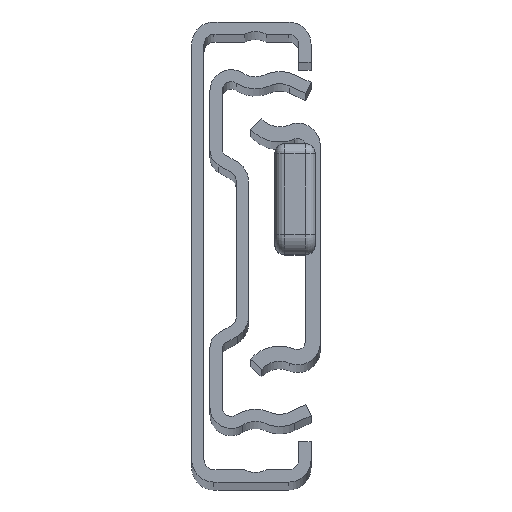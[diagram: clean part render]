
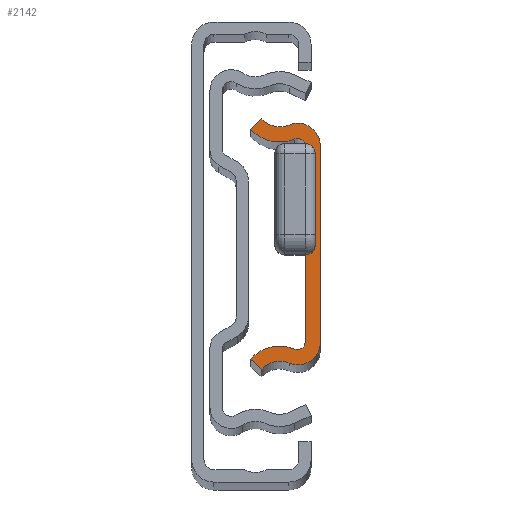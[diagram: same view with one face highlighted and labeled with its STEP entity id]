
A CAD part, top view. The second image highlights one B-rep face of the part: STEP entity #2142.
In plain terms, the highlighted planar face has unit normal (0, 0, 1).
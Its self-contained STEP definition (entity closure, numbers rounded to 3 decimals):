
#28 = ORIENTED_EDGE ( 'NONE', *, *, #2298, .T. ) ;
#34 = DIRECTION ( 'NONE',  ( -1., 0., 0. ) ) ;
#204 = ORIENTED_EDGE ( 'NONE', *, *, #2213, .T. ) ;
#209 = CARTESIAN_POINT ( 'NONE',  ( -0.564, -13.97, 0. ) ) ;
#831 = EDGE_CURVE ( 'NONE', #13198, #18164, #3821, .T. ) ;
#921 = PLANE ( 'NONE',  #24462 ) ;
#1334 = CARTESIAN_POINT ( 'NONE',  ( 1.95, -9.725, 0. ) ) ;
#1961 = DIRECTION ( 'NONE',  ( 0.745, -0.667, 0. ) ) ;
#1976 = FACE_OUTER_BOUND ( 'NONE', #21202, .T. ) ;
#1999 = VERTEX_POINT ( 'NONE', #5037 ) ;
#2138 = DIRECTION ( 'NONE',  ( -0.745, -0.667, 0. ) ) ;
#2142 = ADVANCED_FACE ( 'Face2', ( #1976 ), #921, .T. ) ;
#2213 = EDGE_CURVE ( 'NONE', #18585, #10687, #25864, .T. ) ;
#2296 = CARTESIAN_POINT ( 'NONE',  ( 1.95, -9.725, 0. ) ) ;
#2298 = EDGE_CURVE ( 'NONE', #27238, #13821, #20577, .T. ) ;
#2658 = AXIS2_PLACEMENT_3D ( 'NONE', #26074, #27967, #10317 ) ;
#3283 = EDGE_CURVE ( 'NONE', #5659, #18585, #4070, .T. ) ;
#3374 = AXIS2_PLACEMENT_3D ( 'NONE', #209, #6575, #20199 ) ;
#3472 = EDGE_CURVE ( 'NONE', #13821, #13198, #17418, .T. ) ;
#3752 = DIRECTION ( 'NONE',  ( 0., 0., -1. ) ) ;
#3821 = CIRCLE ( 'NONE', #25749, 3.88 ) ;
#3831 = LINE ( 'NONE', #2296, #19299 ) ;
#3853 = DIRECTION ( 'NONE',  ( 0., 0., -1. ) ) ;
#4070 = CIRCLE ( 'NONE', #10749, 2.226 ) ;
#5037 = CARTESIAN_POINT ( 'NONE',  ( 0.942, -10.394, 0. ) ) ;
#5308 = CARTESIAN_POINT ( 'NONE',  ( -2.333, -12.378, 0. ) ) ;
#5659 = VERTEX_POINT ( 'NONE', #13403 ) ;
#5874 = DIRECTION ( 'NONE',  ( 0., 0., -1. ) ) ;
#5930 = CARTESIAN_POINT ( 'NONE',  ( -0.564, -13.97, 0. ) ) ;
#5963 = CARTESIAN_POINT ( 'NONE',  ( 1.224, -9.725, 0. ) ) ;
#6401 = AXIS2_PLACEMENT_3D ( 'NONE', #8204, #3853, #19565 ) ;
#6575 = DIRECTION ( 'NONE',  ( 0., 0., 1. ) ) ;
#6933 = CARTESIAN_POINT ( 'NONE',  ( 1.95, 9.725, 0. ) ) ;
#7330 = VECTOR ( 'NONE', #1961, 1000. ) ;
#8097 = ORIENTED_EDGE ( 'NONE', *, *, #11609, .T. ) ;
#8185 = DIRECTION ( 'NONE',  ( 1., 0., 0. ) ) ;
#8204 = CARTESIAN_POINT ( 'NONE',  ( 1.224, 9.725, 0. ) ) ;
#8271 = VECTOR ( 'NONE', #2138, 1000. ) ;
#8436 = CARTESIAN_POINT ( 'NONE',  ( -0.564, 13.97, 0. ) ) ;
#9050 = DIRECTION ( 'NONE',  ( 0., 0., 1. ) ) ;
#9348 = EDGE_CURVE ( 'NONE', #24424, #11978, #3831, .T. ) ;
#9620 = ORIENTED_EDGE ( 'NONE', *, *, #24012, .T. ) ;
#10317 = DIRECTION ( 'NONE',  ( -1., 0., 0. ) ) ;
#10586 = ORIENTED_EDGE ( 'NONE', *, *, #831, .T. ) ;
#10687 = VERTEX_POINT ( 'NONE', #24263 ) ;
#10749 = AXIS2_PLACEMENT_3D ( 'NONE', #28551, #12958, #10800 ) ;
#10800 = DIRECTION ( 'NONE',  ( 1., 0., 0. ) ) ;
#11269 = EDGE_CURVE ( 'NONE', #1999, #19591, #16020, .T. ) ;
#11609 = EDGE_CURVE ( 'NONE', #18164, #24424, #18856, .T. ) ;
#11978 = VERTEX_POINT ( 'NONE', #1334 ) ;
#11989 = CARTESIAN_POINT ( 'NONE',  ( 3.45, -9.725, 0. ) ) ;
#12033 = ORIENTED_EDGE ( 'NONE', *, *, #11269, .T. ) ;
#12088 = DIRECTION ( 'NONE',  ( 0., 0., 1. ) ) ;
#12183 = DIRECTION ( 'NONE',  ( 0., 1., 0. ) ) ;
#12354 = CARTESIAN_POINT ( 'NONE',  ( 1.224, 9.725, 0. ) ) ;
#12958 = DIRECTION ( 'NONE',  ( 0., 0., 1. ) ) ;
#13070 = CARTESIAN_POINT ( 'NONE',  ( -3.45, -11.377, 0. ) ) ;
#13198 = VERTEX_POINT ( 'NONE', #22245 ) ;
#13342 = CARTESIAN_POINT ( 'NONE',  ( -3.45, 11.377, 0. ) ) ;
#13403 = CARTESIAN_POINT ( 'NONE',  ( 0.36, -11.777, 0. ) ) ;
#13821 = VERTEX_POINT ( 'NONE', #24586 ) ;
#15764 = AXIS2_PLACEMENT_3D ( 'NONE', #12354, #16796, #27852 ) ;
#16020 = CIRCLE ( 'NONE', #3374, 3.88 ) ;
#16254 = ORIENTED_EDGE ( 'NONE', *, *, #23756, .T. ) ;
#16402 = ORIENTED_EDGE ( 'NONE', *, *, #9348, .T. ) ;
#16796 = DIRECTION ( 'NONE',  ( 0., 0., 1. ) ) ;
#17164 = DIRECTION ( 'NONE',  ( 1., 0., 0. ) ) ;
#17418 = LINE ( 'NONE', #13342, #8271 ) ;
#17459 = CIRCLE ( 'NONE', #15764, 2.226 ) ;
#17544 = ORIENTED_EDGE ( 'NONE', *, *, #3283, .T. ) ;
#17662 = EDGE_CURVE ( 'NONE', #19591, #28919, #19949, .T. ) ;
#17993 = ORIENTED_EDGE ( 'NONE', *, *, #17662, .T. ) ;
#18164 = VERTEX_POINT ( 'NONE', #26354 ) ;
#18585 = VERTEX_POINT ( 'NONE', #21159 ) ;
#18766 = CIRCLE ( 'NONE', #28665, 0.726 ) ;
#18856 = CIRCLE ( 'NONE', #6401, 0.726 ) ;
#19299 = VECTOR ( 'NONE', #20261, 1000. ) ;
#19565 = DIRECTION ( 'NONE',  ( -1., 0., 0. ) ) ;
#19591 = VERTEX_POINT ( 'NONE', #19708 ) ;
#19708 = CARTESIAN_POINT ( 'NONE',  ( -3.45, -11.377, 0. ) ) ;
#19885 = VECTOR ( 'NONE', #12183, 1000. ) ;
#19949 = LINE ( 'NONE', #13070, #7330 ) ;
#20199 = DIRECTION ( 'NONE',  ( 1., 0., 0. ) ) ;
#20261 = DIRECTION ( 'NONE',  ( 0., -1., 0. ) ) ;
#20577 = CIRCLE ( 'NONE', #2658, 2.38 ) ;
#21005 = CIRCLE ( 'NONE', #22701, 2.38 ) ;
#21159 = CARTESIAN_POINT ( 'NONE',  ( 3.45, -9.725, 0. ) ) ;
#21202 = EDGE_LOOP ( 'NONE', ( #16254, #17544, #204, #9620, #28, #24612, #10586, #8097, #16402, #21264, #12033, #17993 ) ) ;
#21264 = ORIENTED_EDGE ( 'NONE', *, *, #21555, .T. ) ;
#21555 = EDGE_CURVE ( 'NONE', #11978, #1999, #18766, .T. ) ;
#22245 = CARTESIAN_POINT ( 'NONE',  ( -3.45, 11.377, 0. ) ) ;
#22701 = AXIS2_PLACEMENT_3D ( 'NONE', #5930, #3752, #8185 ) ;
#23466 = DIRECTION ( 'NONE',  ( 1., 0., 0. ) ) ;
#23756 = EDGE_CURVE ( 'NONE', #28919, #5659, #21005, .T. ) ;
#24012 = EDGE_CURVE ( 'NONE', #10687, #27238, #17459, .T. ) ;
#24263 = CARTESIAN_POINT ( 'NONE',  ( 3.45, 9.725, 0. ) ) ;
#24424 = VERTEX_POINT ( 'NONE', #6933 ) ;
#24462 = AXIS2_PLACEMENT_3D ( 'NONE', #25242, #12088, #23466 ) ;
#24586 = CARTESIAN_POINT ( 'NONE',  ( -2.333, 12.378, 0. ) ) ;
#24612 = ORIENTED_EDGE ( 'NONE', *, *, #3472, .T. ) ;
#25229 = CARTESIAN_POINT ( 'NONE',  ( 0.36, 11.777, 0. ) ) ;
#25242 = CARTESIAN_POINT ( 'NONE',  ( -0.564, -13.97, 0. ) ) ;
#25749 = AXIS2_PLACEMENT_3D ( 'NONE', #8436, #9050, #34 ) ;
#25864 = LINE ( 'NONE', #11989, #19885 ) ;
#26074 = CARTESIAN_POINT ( 'NONE',  ( -0.564, 13.97, 0. ) ) ;
#26354 = CARTESIAN_POINT ( 'NONE',  ( 0.942, 10.394, 0. ) ) ;
#27238 = VERTEX_POINT ( 'NONE', #25229 ) ;
#27852 = DIRECTION ( 'NONE',  ( -1., 0., 0. ) ) ;
#27967 = DIRECTION ( 'NONE',  ( 0., 0., -1. ) ) ;
#28551 = CARTESIAN_POINT ( 'NONE',  ( 1.224, -9.725, 0. ) ) ;
#28665 = AXIS2_PLACEMENT_3D ( 'NONE', #5963, #5874, #17164 ) ;
#28919 = VERTEX_POINT ( 'NONE', #5308 ) ;
